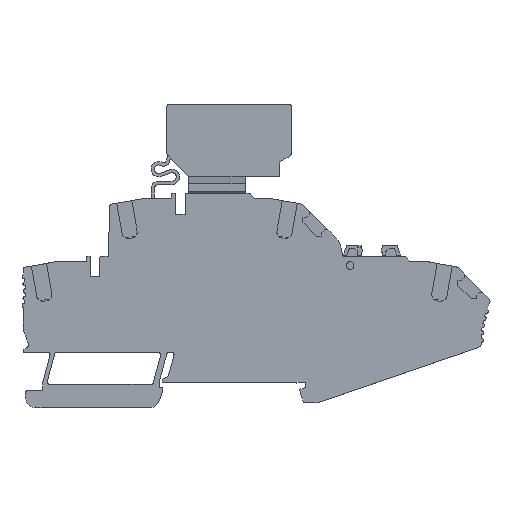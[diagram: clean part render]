
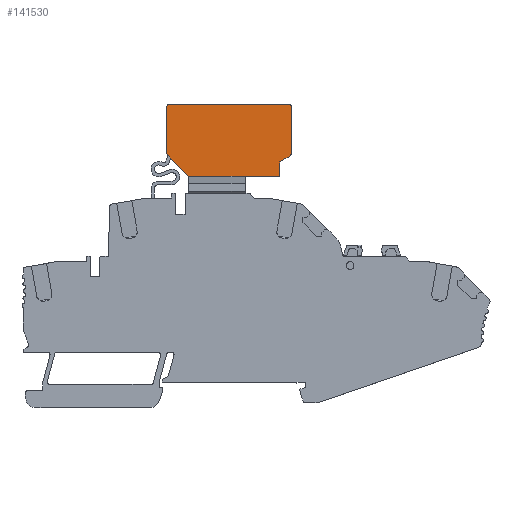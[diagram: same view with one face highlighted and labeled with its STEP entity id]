
A CAD part, top view. The second image highlights one B-rep face of the part: STEP entity #141530.
In plain terms, the highlighted planar face has unit normal (0, 0, 1).
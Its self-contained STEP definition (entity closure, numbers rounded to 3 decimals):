
#138280=CARTESIAN_POINT('',(-5.704,55.554,
0.7));
#138290=VERTEX_POINT('',#138280);
#138320=CARTESIAN_POINT('',(29.05,20.8,
0.7));
#138330=DIRECTION('',(-0.707,0.707,
0.));
#138340=VECTOR('',#138330,1.);
#138350=LINE('',#138320,#138340);
#138360=CARTESIAN_POINT('',(-0.65,50.5,
0.7));
#138370=VERTEX_POINT('',#138360);
#138380=EDGE_CURVE('',#138370,#138290,#138350,.T.);
#138790=CARTESIAN_POINT('',(12.55,50.5,
0.7));
#138800=VERTEX_POINT('',#138790);
#139430=CARTESIAN_POINT('',(22.95,55.199,
0.7));
#139440=VERTEX_POINT('',#139430);
#139470=CARTESIAN_POINT('',(22.45,56.065,
0.7));
#139480=DIRECTION('',(-0.,0.,-1.));
#139490=DIRECTION('',(-1.,0.,0.));
#139500=AXIS2_PLACEMENT_3D('',#139470,#139480,#139490);
#139510=CIRCLE('',#139500,1.);
#139520=CARTESIAN_POINT('',(23.45,56.065,
0.7));
#139530=VERTEX_POINT('',#139520);
#139540=EDGE_CURVE('',#139530,#139440,#139510,.T.);
#139920=CARTESIAN_POINT('',(20.7,53.9,
0.7));
#139930=VERTEX_POINT('',#139920);
#139960=CARTESIAN_POINT('',(-5.65,38.687,
0.7));
#139970=DIRECTION('',(-0.866,-0.5,0.));
#139980=VECTOR('',#139970,1.);
#139990=LINE('',#139960,#139980);
#140000=EDGE_CURVE('',#139440,#139930,#139990,.T.);
#140300=CARTESIAN_POINT('',(20.7,50.5,
0.7));
#140310=VERTEX_POINT('',#140300);
#140340=CARTESIAN_POINT('',(20.7,20.8,
0.7));
#140350=DIRECTION('',(0.,-1.,0.));
#140360=VECTOR('',#140350,1.);
#140370=LINE('',#140340,#140360);
#140380=EDGE_CURVE('',#139930,#140310,#140370,.T.);
#140700=CARTESIAN_POINT('',(-5.65,50.5,
0.7));
#140710=DIRECTION('',(-1.,-0.,0.));
#140720=VECTOR('',#140710,1.);
#140730=LINE('',#140700,#140720);
#140740=EDGE_CURVE('',#140310,#138800,#140730,.T.);
#140860=CARTESIAN_POINT('',(-5.85,53.2,
0.7));
#140870=DIRECTION('',(0.,0.,-1.));
#140880=DIRECTION('',(0.,1.,0.));
#140890=AXIS2_PLACEMENT_3D('',#140860,#140870,#140880);
#140900=PLANE('',#140890);
#140910=CARTESIAN_POINT('',(-5.35,55.907,
0.7));
#140920=DIRECTION('',(0.,0.,1.));
#140930=DIRECTION('',(1.,0.,0.));
#140940=AXIS2_PLACEMENT_3D('',#140910,#140920,#140930);
#140950=CIRCLE('',#140940,0.5);
#140960=CARTESIAN_POINT('',(-5.85,55.907,
0.7));
#140970=VERTEX_POINT('',#140960);
#140980=EDGE_CURVE('',#140970,#138290,#140950,.T.);
#140990=ORIENTED_EDGE('',*,*,#140980,.T.);
#141000=CARTESIAN_POINT('',(-5.85,20.8,
0.7));
#141010=DIRECTION('',(0.,1.,0.));
#141020=VECTOR('',#141010,1.);
#141030=LINE('',#141000,#141020);
#141040=CARTESIAN_POINT('',(-5.85,67.,
0.7));
#141050=VERTEX_POINT('',#141040);
#141060=EDGE_CURVE('',#140970,#141050,#141030,.T.);
#141070=ORIENTED_EDGE('',*,*,#141060,.F.);
#141080=CARTESIAN_POINT('',(-5.35,67.,
0.7));
#141090=DIRECTION('',(-0.,0.,-1.));
#141100=DIRECTION('',(-1.,0.,0.));
#141110=AXIS2_PLACEMENT_3D('',#141080,#141090,#141100);
#141120=CIRCLE('',#141110,0.5);
#141130=CARTESIAN_POINT('',(-5.35,67.5,
0.7));
#141140=VERTEX_POINT('',#141130);
#141150=EDGE_CURVE('',#141050,#141140,#141120,.T.);
#141160=ORIENTED_EDGE('',*,*,#141150,.F.);
#141170=CARTESIAN_POINT('',(9.3,67.5,
0.7));
#141180=DIRECTION('',(1.,0.,0.));
#141190=VECTOR('',#141180,1.);
#141200=LINE('',#141170,#141190);
#141210=CARTESIAN_POINT('',(22.95,67.5,
0.7));
#141220=VERTEX_POINT('',#141210);
#141230=EDGE_CURVE('',#141140,#141220,#141200,.T.);
#141240=ORIENTED_EDGE('',*,*,#141230,.F.);
#141250=CARTESIAN_POINT('',(22.95,67.,
0.7));
#141260=DIRECTION('',(0.,0.,1.));
#141270=DIRECTION('',(1.,0.,0.));
#141280=AXIS2_PLACEMENT_3D('',#141250,#141260,#141270);
#141290=CIRCLE('',#141280,0.5);
#141300=CARTESIAN_POINT('',(23.45,67.,
0.7));
#141310=VERTEX_POINT('',#141300);
#141320=EDGE_CURVE('',#141310,#141220,#141290,.T.);
#141330=ORIENTED_EDGE('',*,*,#141320,.T.);
#141340=CARTESIAN_POINT('',(23.45,20.8,
0.7));
#141350=DIRECTION('',(0.,-1.,0.));
#141360=VECTOR('',#141350,1.);
#141370=LINE('',#141340,#141360);
#141380=EDGE_CURVE('',#141310,#139530,#141370,.T.);
#141390=ORIENTED_EDGE('',*,*,#141380,.F.);
#141400=ORIENTED_EDGE('',*,*,#139540,.F.);
#141410=ORIENTED_EDGE('',*,*,#140000,.F.);
#141420=ORIENTED_EDGE('',*,*,#140380,.F.);
#141430=ORIENTED_EDGE('',*,*,#140740,.F.);
#141440=CARTESIAN_POINT('',(9.3,50.5,
0.7));
#141450=DIRECTION('',(1.,-0.,0.));
#141460=VECTOR('',#141450,1.);
#141470=LINE('',#141440,#141460);
#141480=EDGE_CURVE('',#138370,#138800,#141470,.T.);
#141490=ORIENTED_EDGE('',*,*,#141480,.T.);
#141500=ORIENTED_EDGE('',*,*,#138380,.F.);
#141510=EDGE_LOOP('',(#141500,#141490,#141430,#141420,#141410,#141400,
#141390,#141330,#141240,#141160,#141070,#140990));
#141520=FACE_OUTER_BOUND('',#141510,.T.);
#141530=ADVANCED_FACE('',(#141520),#140900,.F.);
